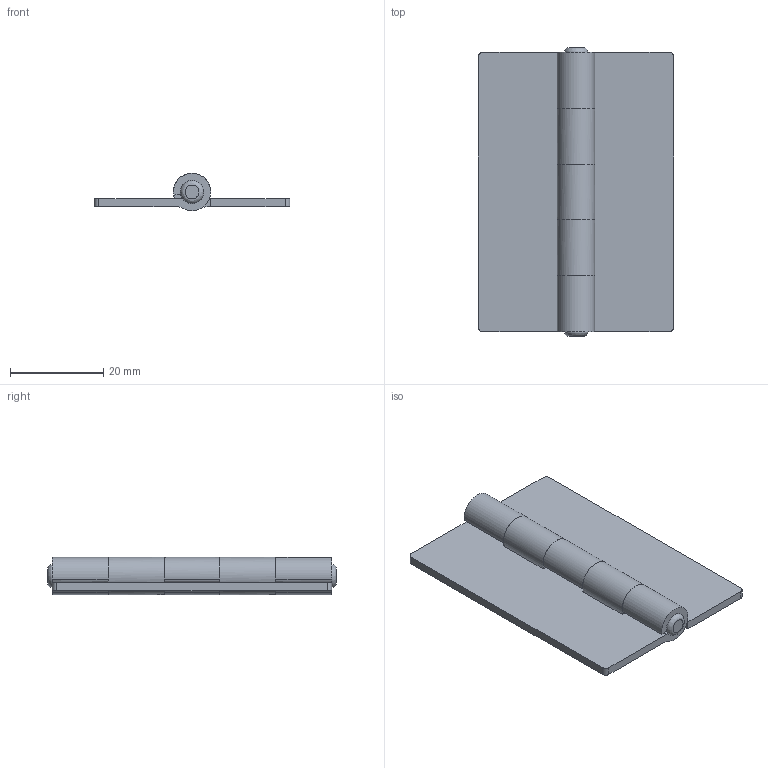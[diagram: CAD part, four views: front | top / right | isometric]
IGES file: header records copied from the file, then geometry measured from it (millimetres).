
Global section: file name: DR_HHN6042-18; native system: Autodesk Inventor 2015; preprocessor: unknown; author: Administrator; date: 20180811.154144; units: millimetre
Bounding box: 42 x 62 x 8 mm (x, y, z)
Volume: 6707.5 mm3; surface area: 7301.2 mm2
Topology: 2 solids, 2 shells, 56 faces, 166 edges, 110 vertices
Faces by surface type: bspline 56
